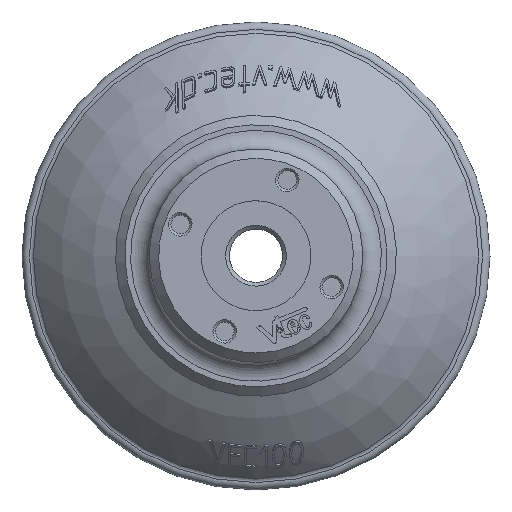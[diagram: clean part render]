
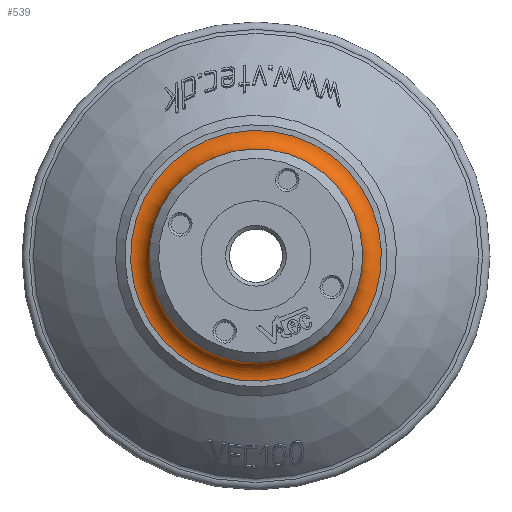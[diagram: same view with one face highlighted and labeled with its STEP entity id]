
A CAD part, top view. The second image highlights one B-rep face of the part: STEP entity #539.
In plain terms, the highlighted toroidal (fillet/blend) face has major radius 26.8 mm and minor radius 4 mm.
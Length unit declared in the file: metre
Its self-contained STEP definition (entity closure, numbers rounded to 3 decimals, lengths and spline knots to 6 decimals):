
#539 = ADVANCED_FACE( '', ( #1439, #1440 ), #1441, .F. );
#1439 = FACE_OUTER_BOUND( '', #6901, .T. );
#1440 = FACE_OUTER_BOUND( '', #6902, .T. );
#1441 = TOROIDAL_SURFACE( '', #6903, 0.0268, 0.004 );
#6901 = EDGE_LOOP( '', ( #9398 ) );
#6902 = EDGE_LOOP( '', ( #9399 ) );
#6903 = AXIS2_PLACEMENT_3D( '', #9400, #9401, #9402 );
#9398 = ORIENTED_EDGE( '', *, *, #10516, .F. );
#9399 = ORIENTED_EDGE( '', *, *, #10517, .T. );
#9400 = CARTESIAN_POINT( '', ( 0., 0., 0.00225 ) );
#9401 = DIRECTION( '', ( 0., 0., 1. ) );
#9402 = DIRECTION( '', ( 1., 0., 0. ) );
#10516 = EDGE_CURVE( '', #12051, #12051, #12052, .T. );
#10517 = EDGE_CURVE( '', #12053, #12053, #12054, .T. );
#12051 = VERTEX_POINT( '', #18149 );
#12052 = CIRCLE( '', #18150, 0.0228 );
#12053 = VERTEX_POINT( '', #18151 );
#12054 = CIRCLE( '', #18152, 0.0268 );
#18149 = CARTESIAN_POINT( '', ( 0.0228, 0., 0.00225 ) );
#18150 = AXIS2_PLACEMENT_3D( '', #19338, #19339, #19340 );
#18151 = CARTESIAN_POINT( '', ( 0.0268, 0., -0.00175 ) );
#18152 = AXIS2_PLACEMENT_3D( '', #19341, #19342, #19343 );
#19338 = CARTESIAN_POINT( '', ( 0., 0., 0.00225 ) );
#19339 = DIRECTION( '', ( 0., 0., 1. ) );
#19340 = DIRECTION( '', ( 1., 0., 0. ) );
#19341 = CARTESIAN_POINT( '', ( 0., 0., -0.00175 ) );
#19342 = DIRECTION( '', ( 0., 0., 1. ) );
#19343 = DIRECTION( '', ( 1., 0., 0. ) );
